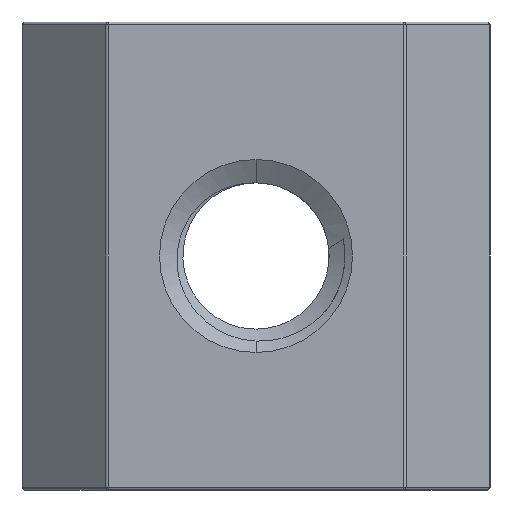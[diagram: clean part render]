
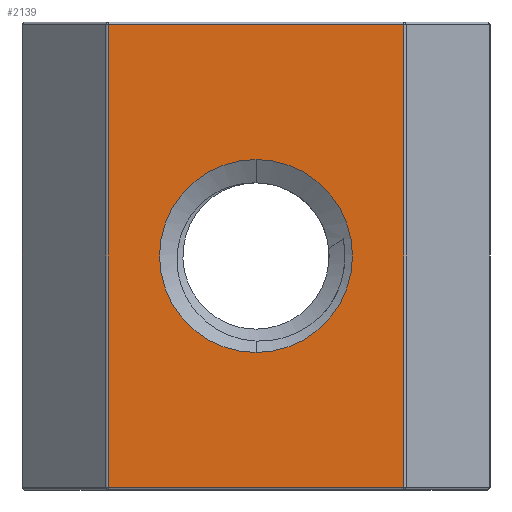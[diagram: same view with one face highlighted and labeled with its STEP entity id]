
A CAD part, front view. The second image highlights one B-rep face of the part: STEP entity #2139.
In plain terms, the highlighted planar face has unit normal (0, -1, 0).
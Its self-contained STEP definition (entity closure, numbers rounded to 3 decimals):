
#93 = EDGE_CURVE ( 'NONE', #1804, #3558, #860, .T. ) ;
#134 = DIRECTION ( 'NONE',  ( 0., 0., 1. ) ) ;
#184 = VECTOR ( 'NONE', #2177, 1000. ) ;
#197 = LINE ( 'NONE', #3244, #3407 ) ;
#276 = DIRECTION ( 'NONE',  ( 0., 0., -1. ) ) ;
#314 = VERTEX_POINT ( 'NONE', #2617 ) ;
#319 = VECTOR ( 'NONE', #2755, 1000. ) ;
#440 = PLANE ( 'NONE',  #2743 ) ;
#471 = DIRECTION ( 'NONE',  ( 0., 1., 0. ) ) ;
#493 = FACE_BOUND ( 'NONE', #1327, .T. ) ;
#635 = CARTESIAN_POINT ( 'NONE',  ( 0., -3., -3.3 ) ) ;
#688 = DIRECTION ( 'NONE',  ( 0., 1., 0. ) ) ;
#860 = LINE ( 'NONE', #2775, #319 ) ;
#945 = VERTEX_POINT ( 'NONE', #2935 ) ;
#970 = CARTESIAN_POINT ( 'NONE',  ( 5.059, -3., -7.9 ) ) ;
#1026 = DIRECTION ( 'NONE',  ( 0., 1., 0. ) ) ;
#1083 = EDGE_CURVE ( 'NONE', #2200, #1804, #2669, .T. ) ;
#1247 = CARTESIAN_POINT ( 'NONE',  ( 0., -3., 0. ) ) ;
#1327 = EDGE_LOOP ( 'NONE', ( #1605, #3547 ) ) ;
#1341 = CIRCLE ( 'NONE', #3160, 3.3 ) ;
#1421 = EDGE_CURVE ( 'NONE', #314, #2587, #1341, .T. ) ;
#1422 = VECTOR ( 'NONE', #276, 1000. ) ;
#1423 = LINE ( 'NONE', #1636, #1422 ) ;
#1512 = DIRECTION ( 'NONE',  ( 0., 0., 1. ) ) ;
#1597 = CARTESIAN_POINT ( 'NONE',  ( 0., -3., 0. ) ) ;
#1605 = ORIENTED_EDGE ( 'NONE', *, *, #1421, .T. ) ;
#1636 = CARTESIAN_POINT ( 'NONE',  ( -5.059, -3., 8. ) ) ;
#1804 = VERTEX_POINT ( 'NONE', #1841 ) ;
#1841 = CARTESIAN_POINT ( 'NONE',  ( 5.059, -3., 7.9 ) ) ;
#1850 = EDGE_CURVE ( 'NONE', #2587, #314, #2154, .T. ) ;
#1851 = FACE_OUTER_BOUND ( 'NONE', #2346, .T. ) ;
#2139 = ADVANCED_FACE ( 'NONE', ( #493, #1851 ), #440, .F. ) ;
#2141 = ORIENTED_EDGE ( 'NONE', *, *, #2509, .T. ) ;
#2154 = CIRCLE ( 'NONE', #2918, 3.3 ) ;
#2177 = DIRECTION ( 'NONE',  ( 0., 0., 1. ) ) ;
#2190 = CARTESIAN_POINT ( 'NONE',  ( -5.059, -3., 7.9 ) ) ;
#2200 = VERTEX_POINT ( 'NONE', #970 ) ;
#2346 = EDGE_LOOP ( 'NONE', ( #3361, #2141, #2966, #3535 ) ) ;
#2433 = EDGE_CURVE ( 'NONE', #945, #2200, #197, .T. ) ;
#2509 = EDGE_CURVE ( 'NONE', #3558, #945, #1423, .T. ) ;
#2512 = CARTESIAN_POINT ( 'NONE',  ( 5.059, -3., 8. ) ) ;
#2587 = VERTEX_POINT ( 'NONE', #635 ) ;
#2617 = CARTESIAN_POINT ( 'NONE',  ( 0., -3., 3.3 ) ) ;
#2669 = LINE ( 'NONE', #2512, #184 ) ;
#2743 = AXIS2_PLACEMENT_3D ( 'NONE', #2954, #471, #134 ) ;
#2755 = DIRECTION ( 'NONE',  ( -1., 0., 0. ) ) ;
#2775 = CARTESIAN_POINT ( 'NONE',  ( -8., -3., 7.9 ) ) ;
#2918 = AXIS2_PLACEMENT_3D ( 'NONE', #1247, #688, #1512 ) ;
#2935 = CARTESIAN_POINT ( 'NONE',  ( -5.059, -3., -7.9 ) ) ;
#2954 = CARTESIAN_POINT ( 'NONE',  ( -8., -3., 8. ) ) ;
#2960 = DIRECTION ( 'NONE',  ( 0., 0., 1. ) ) ;
#2966 = ORIENTED_EDGE ( 'NONE', *, *, #2433, .T. ) ;
#3160 = AXIS2_PLACEMENT_3D ( 'NONE', #1597, #1026, #2960 ) ;
#3244 = CARTESIAN_POINT ( 'NONE',  ( 5.1, -3., -7.9 ) ) ;
#3361 = ORIENTED_EDGE ( 'NONE', *, *, #93, .T. ) ;
#3407 = VECTOR ( 'NONE', #3550, 1000. ) ;
#3535 = ORIENTED_EDGE ( 'NONE', *, *, #1083, .T. ) ;
#3547 = ORIENTED_EDGE ( 'NONE', *, *, #1850, .T. ) ;
#3550 = DIRECTION ( 'NONE',  ( 1., 0., 0. ) ) ;
#3558 = VERTEX_POINT ( 'NONE', #2190 ) ;
